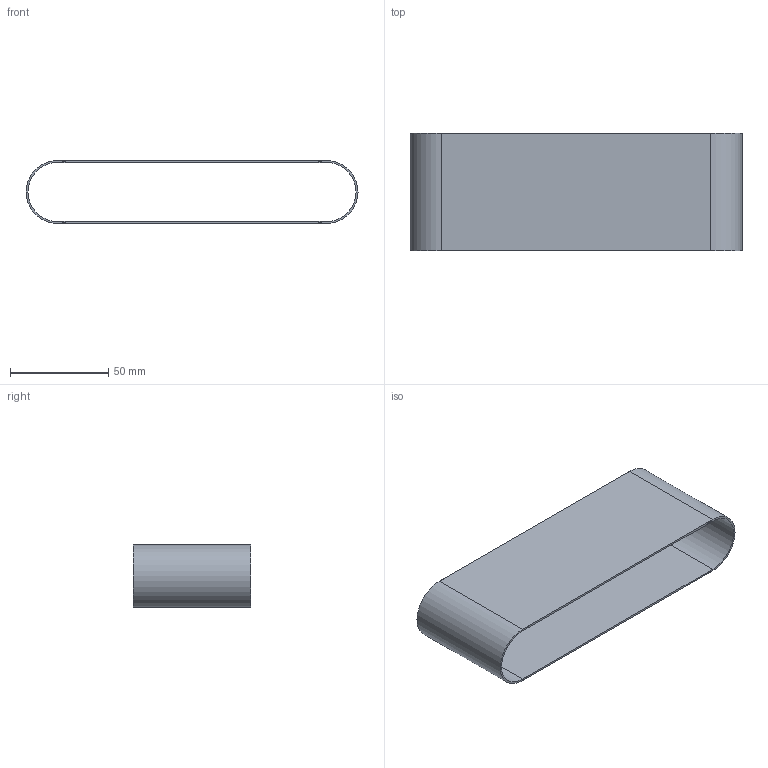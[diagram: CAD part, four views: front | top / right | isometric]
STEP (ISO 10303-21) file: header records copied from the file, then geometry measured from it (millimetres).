
FILE_DESCRIPTION(('Open CASCADE Model'),'2;1');
FILE_NAME('Open CASCADE Shape Model','2026-10-04T02:31:44',('Author'),( 'Open CASCADE'),'Open CASCADE STEP processor 8.0','Open CASCADE 8.0' ,'Unknown');
FILE_SCHEMA(('AUTOMOTIVE_DESIGN { 1 0 10303 214 1 1 1 1 }'));
Length unit declared in the file: millimetre
Products named in the file (1): Open CASCADE STEP translator 8.0 325
Bounding box: 169 x 60 x 32 mm (x, y, z)
Volume: 22283.4 mm3; surface area: 45309.5 mm2
Topology: 1 solids, 1 shells, 24 faces, 48 edges, 24 vertices
Faces by surface type: plane 20, cylinder 4
Entity records: 1234 total; most frequent: DIRECTION 210, CARTESIAN_POINT 193, LINE 104, VECTOR 104, ORIENTED_EDGE 96, PCURVE 96, DEFINITIONAL_REPRESENTATION 96, EDGE_CURVE 48
